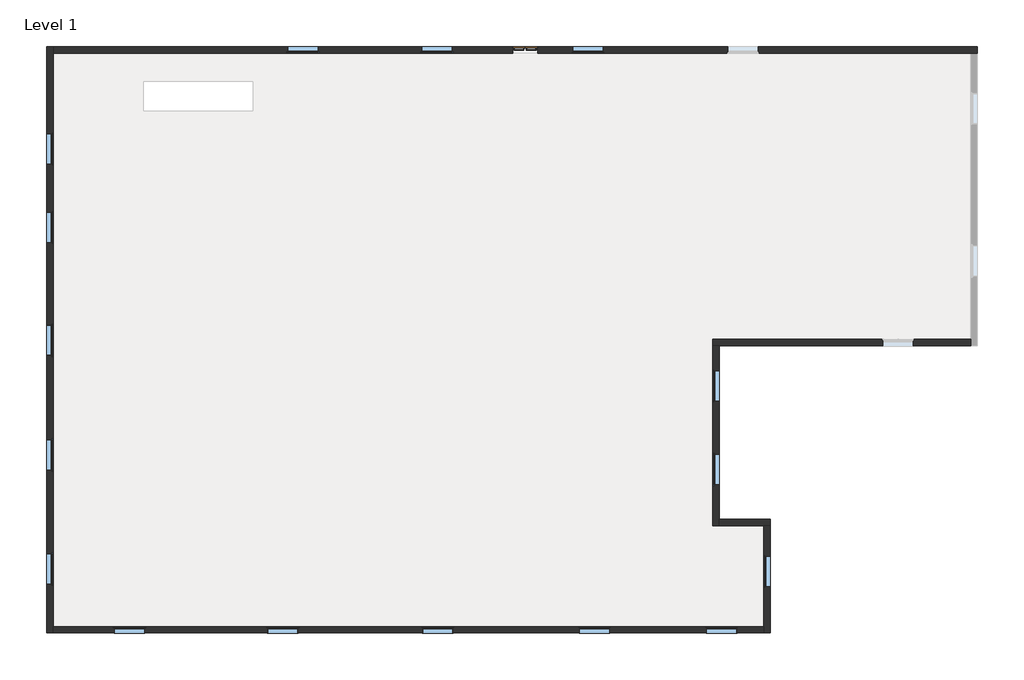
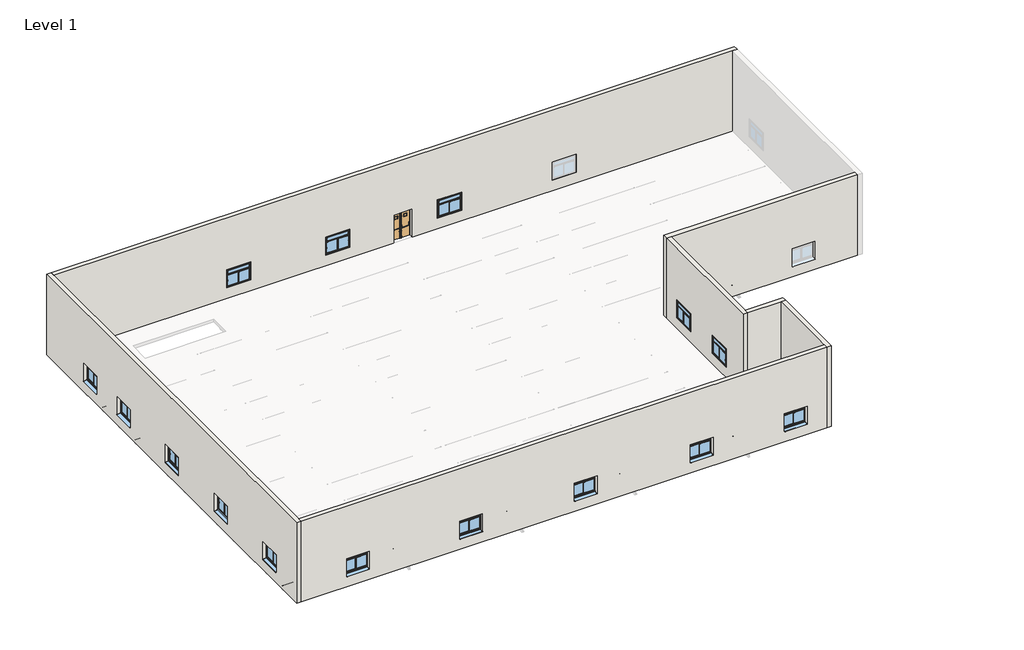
# One storey, part 1 of 2: 16 windows, 7 walls, 3 doors.
"""IFC4 building model written with IfcOpenShell, lengths in millimetres."""

from ifc_helpers import new_model, si_unit, origin, place, context, project, spatial, faceted_brep, transform, mapped, element, save
from components import door_de1cb5ff, door_e2584a8f, door_1_43m_x_2_10m_2_c0492d68, window_1_60m_x_1_30m_2_3fc02772

model = new_model("IFC4")

# Units and contexts
model_context = context("Model", 3, world=origin())
ifc_project = project(units=[si_unit("LENGTHUNIT", "METRE", prefix="MILLI")], contexts=[model_context])

# Site, building, storey
site = spatial("IfcSite", under=ifc_project)
building = spatial("IfcBuilding", under=site)
storey = spatial("IfcBuildingStorey", under=building, Name="Level 1", Elevation=5500.0)

# Doors
placement = place(None, origin())
door_shape = door_de1cb5ff(model_context)
element("IfcDoor", 1, ObjectType="BarreAP : BarreAP", at=placement, inside=storey, context=model_context, shape_type="MappedRepresentation", body=[
    mapped(door_shape, transform((24740.0, 30280.0, 5500.0), x_axis=(1.0, 0.0, 0.0), y_axis=(0.0, 1.0, 0.0), z_axis=(0.0, 0.0, 1.0))),
])
door_2_shape = door_e2584a8f(model_context)
element("IfcDoor", 2, ObjectType="BarreAP : BarreAP", at=placement, inside=storey, context=model_context, shape_type="MappedRepresentation", body=[
    mapped(door_2_shape, transform((24640.0, 30280.0, 5500.0), x_axis=(-1.0, 0.0, 0.0), y_axis=(0.0, -1.0, 0.0), z_axis=(0.0, 0.0, 1.0))),
])
door_1_43m_x_2_10m_2_shape = door_1_43m_x_2_10m_2_c0492d68(model_context)
element("IfcDoor", 3, ObjectType="Issue de Secours : 1.43m x 2.10m 2", at=placement, inside=storey, context=model_context, shape_type="MappedRepresentation", body=[
    mapped(door_1_43m_x_2_10m_2_shape, transform((24690.0, 30145.0, 5500.0), x_axis=(1.0, 0.0, 0.0), y_axis=(0.0, 1.0, 0.0), z_axis=(0.0, 0.0, 1.0))),
])

# Walls
element("IfcWall", 4, ObjectType="Ext. Parpaing 20 + Isolant ext&int", at=placement, inside=storey, context=model_context, shape_type="Brep", body=[
    faceted_brep([(20.0, -310.0, 5500.0), (20.0, 20.0, 5500.0), (20.0, 29980.0, 5500.0), (20.0, 30310.0, 5500.0), (20.0, 30310.0, 11500.0), (20.0, 29980.0, 11500.0), (20.0, 20.0, 11500.0), (20.0, -310.0, 11500.0), (20.0, 25830.0, 6300.0), (20.0, 24130.0, 6300.0), (20.0, 24130.0, 7650.0), (20.0, 25830.0, 7650.0), (20.0, 21730.0, 6300.0), (20.0, 20030.0, 6300.0), (20.0, 20030.0, 7650.0), (20.0, 21730.0, 7650.0), (20.0, 15830.0, 6300.0), (20.0, 14130.0, 6300.0), (20.0, 14130.0, 7650.0), (20.0, 15830.0, 7650.0), (20.0, 9830.0, 6300.0), (20.0, 8130.0, 6300.0), (20.0, 8130.0, 7650.0), (20.0, 9830.0, 7650.0), (20.0, 3870.0, 6300.0), (20.0, 2170.0, 6300.0), (20.0, 2170.0, 7650.0), (20.0, 3870.0, 7650.0), (-310.0, -310.0, 5500.0), (-310.0, -310.0, 11500.0), (-310.0, 30310.0, 11500.0), (-310.0, 30310.0, 5500.0), (-310.0, 24180.0, 7600.0), (-310.0, 24180.0, 6258.7239412), (-310.0, 25780.0, 6258.7239412), (-310.0, 25780.0, 7600.0), (-310.0, 20080.0, 7600.0), (-310.0, 20080.0, 6258.7239412), (-310.0, 21680.0, 6258.7239412), (-310.0, 21680.0, 7600.0), (-310.0, 14180.0, 7600.0), (-310.0, 14180.0, 6258.7239412), (-310.0, 15780.0, 6258.7239412), (-310.0, 15780.0, 7600.0), (-310.0, 8180.0, 7600.0), (-310.0, 8180.0, 6258.7239412), (-310.0, 9780.0, 6258.7239412), (-310.0, 9780.0, 7600.0), (-310.0, 2220.0, 7600.0), (-310.0, 2220.0, 6258.7239412), (-310.0, 3820.0, 6258.7239412), (-310.0, 3820.0, 7600.0), (-60.0, 24180.0, 6300.0), (-60.0, 24180.0, 6285.0), (-80.0, 24180.0, 7600.0), (-80.0, 24180.0, 6300.0), (-60.0, 25780.0, 6285.0), (-60.0, 25780.0, 6300.0), (-80.0, 25780.0, 6300.0), (-80.0, 25780.0, 7600.0), (-80.0, 24170.0, 6300.0), (-50.0, 24170.0, 6300.0), (-50.0, 24130.0, 6300.0), (-50.0, 25830.0, 6300.0), (-50.0, 25790.0, 6300.0), (-80.0, 25790.0, 6300.0), (-50.0, 24130.0, 7650.0), (-50.0, 24170.0, 7610.0), (-50.0, 25790.0, 7610.0), (-50.0, 25830.0, 7650.0), (-80.0, 24170.0, 7610.0), (-80.0, 25790.0, 7610.0), (-60.0, 20080.0, 6300.0), (-60.0, 20080.0, 6285.0), (-80.0, 20080.0, 7600.0), (-80.0, 20080.0, 6300.0), (-60.0, 21680.0, 6285.0), (-60.0, 21680.0, 6300.0), (-80.0, 21680.0, 6300.0), (-80.0, 21680.0, 7600.0), (-80.0, 20070.0, 6300.0), (-50.0, 20070.0, 6300.0), (-50.0, 20030.0, 6300.0), (-50.0, 21730.0, 6300.0), (-50.0, 21690.0, 6300.0), (-80.0, 21690.0, 6300.0), (-50.0, 20030.0, 7650.0), (-50.0, 20070.0, 7610.0), (-50.0, 21690.0, 7610.0), (-50.0, 21730.0, 7650.0), (-80.0, 20070.0, 7610.0), (-80.0, 21690.0, 7610.0), (-60.0, 14180.0, 6300.0), (-60.0, 14180.0, 6285.0), (-80.0, 14180.0, 7600.0), (-80.0, 14180.0, 6300.0), (-60.0, 15780.0, 6285.0), (-60.0, 15780.0, 6300.0), (-80.0, 15780.0, 6300.0), (-80.0, 15780.0, 7600.0), (-80.0, 14170.0, 6300.0), (-50.0, 14170.0, 6300.0), (-50.0, 14130.0, 6300.0), (-50.0, 15830.0, 6300.0), (-50.0, 15790.0, 6300.0), (-80.0, 15790.0, 6300.0), (-50.0, 14130.0, 7650.0), (-50.0, 14170.0, 7610.0), (-50.0, 15790.0, 7610.0), (-50.0, 15830.0, 7650.0), (-80.0, 14170.0, 7610.0), (-80.0, 15790.0, 7610.0), (-60.0, 8180.0, 6300.0), (-60.0, 8180.0, 6285.0), (-80.0, 8180.0, 7600.0), (-80.0, 8180.0, 6300.0), (-60.0, 9780.0, 6285.0), (-60.0, 9780.0, 6300.0), (-80.0, 9780.0, 6300.0), (-80.0, 9780.0, 7600.0), (-80.0, 8170.0, 6300.0), (-50.0, 8170.0, 6300.0), (-50.0, 8130.0, 6300.0), (-50.0, 9830.0, 6300.0), (-50.0, 9790.0, 6300.0), (-80.0, 9790.0, 6300.0), (-50.0, 8130.0, 7650.0), (-50.0, 8170.0, 7610.0), (-50.0, 9790.0, 7610.0), (-50.0, 9830.0, 7650.0), (-80.0, 8170.0, 7610.0), (-80.0, 9790.0, 7610.0), (-60.0, 2220.0, 6300.0), (-60.0, 2220.0, 6285.0), (-80.0, 2220.0, 7600.0), (-80.0, 2220.0, 6300.0), (-60.0, 3820.0, 6285.0), (-60.0, 3820.0, 6300.0), (-80.0, 3820.0, 6300.0), (-80.0, 3820.0, 7600.0), (-80.0, 2210.0, 6300.0), (-50.0, 2210.0, 6300.0), (-50.0, 2170.0, 6300.0), (-50.0, 3870.0, 6300.0), (-50.0, 3830.0, 6300.0), (-80.0, 3830.0, 6300.0), (-50.0, 2170.0, 7650.0), (-50.0, 2210.0, 7610.0), (-50.0, 3830.0, 7610.0), (-50.0, 3870.0, 7650.0), (-80.0, 2210.0, 7610.0), (-80.0, 3830.0, 7610.0)], [[[0, 1, 2, 3, 4, 5, 6, 7], [8, 9, 10, 11], [12, 13, 14, 15], [16, 17, 18, 19], [20, 21, 22, 23], [24, 25, 26, 27]], [[28, 29, 30, 31], [32, 33, 34, 35], [36, 37, 38, 39], [40, 41, 42, 43], [44, 45, 46, 47], [48, 49, 50, 51]], [[3, 2, 1, 0, 28, 31]], [[7, 6, 5, 4, 30, 29]], [[4, 3, 31, 30]], [[0, 7, 29, 28]], [[52, 53, 33, 32, 54, 55]], [[56, 57, 58, 59, 35, 34]], [[53, 56, 34, 33]], [[53, 52, 57, 56]], [[32, 35, 59, 54]], [[57, 52, 55, 60, 61, 62, 9, 8, 63, 64, 65, 58]], [[9, 62, 66, 10]], [[62, 61, 67, 68, 64, 63, 69, 66]], [[61, 60, 70, 67]], [[60, 55, 54, 59, 58, 65, 71, 70]], [[10, 66, 69, 11]], [[68, 67, 70, 71]], [[69, 63, 8, 11]], [[64, 68, 71, 65]], [[72, 73, 37, 36, 74, 75]], [[76, 77, 78, 79, 39, 38]], [[73, 76, 38, 37]], [[73, 72, 77, 76]], [[36, 39, 79, 74]], [[77, 72, 75, 80, 81, 82, 13, 12, 83, 84, 85, 78]], [[13, 82, 86, 14]], [[82, 81, 87, 88, 84, 83, 89, 86]], [[81, 80, 90, 87]], [[80, 75, 74, 79, 78, 85, 91, 90]], [[14, 86, 89, 15]], [[88, 87, 90, 91]], [[89, 83, 12, 15]], [[84, 88, 91, 85]], [[92, 93, 41, 40, 94, 95]], [[96, 97, 98, 99, 43, 42]], [[93, 96, 42, 41]], [[93, 92, 97, 96]], [[40, 43, 99, 94]], [[97, 92, 95, 100, 101, 102, 17, 16, 103, 104, 105, 98]], [[17, 102, 106, 18]], [[102, 101, 107, 108, 104, 103, 109, 106]], [[101, 100, 110, 107]], [[100, 95, 94, 99, 98, 105, 111, 110]], [[18, 106, 109, 19]], [[108, 107, 110, 111]], [[109, 103, 16, 19]], [[104, 108, 111, 105]], [[112, 113, 45, 44, 114, 115]], [[116, 117, 118, 119, 47, 46]], [[113, 116, 46, 45]], [[113, 112, 117, 116]], [[44, 47, 119, 114]], [[117, 112, 115, 120, 121, 122, 21, 20, 123, 124, 125, 118]], [[21, 122, 126, 22]], [[122, 121, 127, 128, 124, 123, 129, 126]], [[121, 120, 130, 127]], [[120, 115, 114, 119, 118, 125, 131, 130]], [[22, 126, 129, 23]], [[128, 127, 130, 131]], [[129, 123, 20, 23]], [[124, 128, 131, 125]], [[132, 133, 49, 48, 134, 135]], [[136, 137, 138, 139, 51, 50]], [[133, 136, 50, 49]], [[133, 132, 137, 136]], [[48, 51, 139, 134]], [[137, 132, 135, 140, 141, 142, 25, 24, 143, 144, 145, 138]], [[25, 142, 146, 26]], [[142, 141, 147, 148, 144, 143, 149, 146]], [[141, 140, 150, 147]], [[140, 135, 134, 139, 138, 145, 151, 150]], [[26, 146, 149, 27]], [[148, 147, 150, 151]], [[149, 143, 24, 27]], [[144, 148, 151, 145]]]),
])
element("IfcWall", 5, ObjectType="Ext. Parpaing 20 + Isolant ext&int", at=placement, inside=storey, context=model_context, shape_type="Brep", body=[
    faceted_brep([(48310.0, 29980.0, 11500.0), (47980.0, 29980.0, 11500.0), (20.0, 29980.0, 11500.0), (20.0, 29980.0, 5500.0), (24030.0, 29980.0, 5500.0), (24030.0, 29980.0, 7610.0), (25350.0, 29980.0, 7610.0), (25350.0, 29980.0, 5500.0), (47980.0, 29980.0, 5500.0), (48310.0, 29980.0, 5500.0), (36930.0, 29980.0, 6300.0), (35230.0, 29980.0, 6300.0), (35230.0, 29980.0, 7650.0), (36930.0, 29980.0, 7650.0), (28830.0, 29980.0, 6300.0), (27130.0, 29980.0, 6300.0), (27130.0, 29980.0, 7650.0), (28830.0, 29980.0, 7650.0), (20930.0, 29980.0, 6300.0), (19230.0, 29980.0, 6300.0), (19230.0, 29980.0, 7650.0), (20930.0, 29980.0, 7650.0), (13930.0, 29980.0, 6300.0), (12230.0, 29980.0, 6300.0), (12230.0, 29980.0, 7650.0), (13930.0, 29980.0, 7650.0), (20.0, 30310.0, 11500.0), (48310.0, 30310.0, 11500.0), (48310.0, 30310.0, 5500.0), (25390.0, 30310.0, 5500.0), (25390.0, 30310.0, 7650.0), (23990.0, 30310.0, 7650.0), (23990.0, 30310.0, 5500.0), (20.0, 30310.0, 5500.0), (35280.0, 30310.0, 7600.0), (35280.0, 30310.0, 6258.7239412), (36880.0, 30310.0, 6258.7239412), (36880.0, 30310.0, 7600.0), (27180.0, 30310.0, 7600.0), (27180.0, 30310.0, 6258.7239412), (28780.0, 30310.0, 6258.7239412), (28780.0, 30310.0, 7600.0), (19280.0, 30310.0, 7600.0), (19280.0, 30310.0, 6258.7239412), (20880.0, 30310.0, 6258.7239412), (20880.0, 30310.0, 7600.0), (12280.0, 30310.0, 7600.0), (12280.0, 30310.0, 6258.7239412), (13880.0, 30310.0, 6258.7239412), (13880.0, 30310.0, 7600.0), (23990.0, 30260.0, 5500.0), (24030.0, 30260.0, 5500.0), (25350.0, 30260.0, 5500.0), (25390.0, 30260.0, 5500.0), (35280.0, 30060.0, 6300.0), (35280.0, 30060.0, 6285.0), (35280.0, 30080.0, 7600.0), (35280.0, 30080.0, 6300.0), (36880.0, 30060.0, 6285.0), (36880.0, 30060.0, 6300.0), (36880.0, 30080.0, 6300.0), (36880.0, 30080.0, 7600.0), (35270.0, 30080.0, 6300.0), (35270.0, 30050.0, 6300.0), (35230.0, 30050.0, 6300.0), (36930.0, 30050.0, 6300.0), (36890.0, 30050.0, 6300.0), (36890.0, 30080.0, 6300.0), (35230.0, 30050.0, 7650.0), (35270.0, 30050.0, 7610.0), (36890.0, 30050.0, 7610.0), (36930.0, 30050.0, 7650.0), (35270.0, 30080.0, 7610.0), (36890.0, 30080.0, 7610.0), (27180.0, 30060.0, 6300.0), (27180.0, 30060.0, 6285.0), (27180.0, 30080.0, 7600.0), (27180.0, 30080.0, 6300.0), (28780.0, 30060.0, 6285.0), (28780.0, 30060.0, 6300.0), (28780.0, 30080.0, 6300.0), (28780.0, 30080.0, 7600.0), (27170.0, 30080.0, 6300.0), (27170.0, 30050.0, 6300.0), (27130.0, 30050.0, 6300.0), (28830.0, 30050.0, 6300.0), (28790.0, 30050.0, 6300.0), (28790.0, 30080.0, 6300.0), (27130.0, 30050.0, 7650.0), (27170.0, 30050.0, 7610.0), (28790.0, 30050.0, 7610.0), (28830.0, 30050.0, 7650.0), (27170.0, 30080.0, 7610.0), (28790.0, 30080.0, 7610.0), (19280.0, 30060.0, 6300.0), (19280.0, 30060.0, 6285.0), (19280.0, 30080.0, 7600.0), (19280.0, 30080.0, 6300.0), (20880.0, 30060.0, 6285.0), (20880.0, 30060.0, 6300.0), (20880.0, 30080.0, 6300.0), (20880.0, 30080.0, 7600.0), (19270.0, 30080.0, 6300.0), (19270.0, 30050.0, 6300.0), (19230.0, 30050.0, 6300.0), (20930.0, 30050.0, 6300.0), (20890.0, 30050.0, 6300.0), (20890.0, 30080.0, 6300.0), (19230.0, 30050.0, 7650.0), (19270.0, 30050.0, 7610.0), (20890.0, 30050.0, 7610.0), (20930.0, 30050.0, 7650.0), (19270.0, 30080.0, 7610.0), (20890.0, 30080.0, 7610.0), (12280.0, 30060.0, 6300.0), (12280.0, 30060.0, 6285.0), (12280.0, 30080.0, 7600.0), (12280.0, 30080.0, 6300.0), (13880.0, 30060.0, 6285.0), (13880.0, 30060.0, 6300.0), (13880.0, 30080.0, 6300.0), (13880.0, 30080.0, 7600.0), (12270.0, 30080.0, 6300.0), (12270.0, 30050.0, 6300.0), (12230.0, 30050.0, 6300.0), (13930.0, 30050.0, 6300.0), (13890.0, 30050.0, 6300.0), (13890.0, 30080.0, 6300.0), (12230.0, 30050.0, 7650.0), (12270.0, 30050.0, 7610.0), (13890.0, 30050.0, 7610.0), (13930.0, 30050.0, 7650.0), (12270.0, 30080.0, 7610.0), (13890.0, 30080.0, 7610.0), (25350.0, 30260.0, 7610.0), (24030.0, 30260.0, 7610.0), (23990.0, 30260.0, 7650.0), (25390.0, 30260.0, 7650.0)], [[[0, 1, 2, 3, 4, 5, 6, 7, 8, 9], [10, 11, 12, 13], [14, 15, 16, 17], [18, 19, 20, 21], [22, 23, 24, 25]], [[26, 27, 28, 29, 30, 31, 32, 33], [34, 35, 36, 37], [38, 39, 40, 41], [42, 43, 44, 45], [46, 47, 48, 49]], [[3, 33, 32, 50, 51, 4]], [[28, 9, 8, 7, 52, 53, 29]], [[2, 1, 0, 27, 26]], [[3, 2, 26, 33]], [[0, 9, 28, 27]], [[54, 55, 35, 34, 56, 57]], [[58, 59, 60, 61, 37, 36]], [[55, 58, 36, 35]], [[55, 54, 59, 58]], [[34, 37, 61, 56]], [[59, 54, 57, 62, 63, 64, 11, 10, 65, 66, 67, 60]], [[11, 64, 68, 12]], [[64, 63, 69, 70, 66, 65, 71, 68]], [[63, 62, 72, 69]], [[62, 57, 56, 61, 60, 67, 73, 72]], [[12, 68, 71, 13]], [[70, 69, 72, 73]], [[71, 65, 10, 13]], [[66, 70, 73, 67]], [[74, 75, 39, 38, 76, 77]], [[78, 79, 80, 81, 41, 40]], [[75, 78, 40, 39]], [[75, 74, 79, 78]], [[38, 41, 81, 76]], [[79, 74, 77, 82, 83, 84, 15, 14, 85, 86, 87, 80]], [[15, 84, 88, 16]], [[84, 83, 89, 90, 86, 85, 91, 88]], [[83, 82, 92, 89]], [[82, 77, 76, 81, 80, 87, 93, 92]], [[16, 88, 91, 17]], [[90, 89, 92, 93]], [[91, 85, 14, 17]], [[86, 90, 93, 87]], [[94, 95, 43, 42, 96, 97]], [[98, 99, 100, 101, 45, 44]], [[95, 98, 44, 43]], [[95, 94, 99, 98]], [[42, 45, 101, 96]], [[99, 94, 97, 102, 103, 104, 19, 18, 105, 106, 107, 100]], [[19, 104, 108, 20]], [[104, 103, 109, 110, 106, 105, 111, 108]], [[103, 102, 112, 109]], [[102, 97, 96, 101, 100, 107, 113, 112]], [[20, 108, 111, 21]], [[110, 109, 112, 113]], [[111, 105, 18, 21]], [[106, 110, 113, 107]], [[114, 115, 47, 46, 116, 117]], [[118, 119, 120, 121, 49, 48]], [[115, 118, 48, 47]], [[115, 114, 119, 118]], [[46, 49, 121, 116]], [[119, 114, 117, 122, 123, 124, 23, 22, 125, 126, 127, 120]], [[23, 124, 128, 24]], [[124, 123, 129, 130, 126, 125, 131, 128]], [[123, 122, 132, 129]], [[122, 117, 116, 121, 120, 127, 133, 132]], [[24, 128, 131, 25]], [[130, 129, 132, 133]], [[131, 125, 22, 25]], [[126, 130, 133, 127]], [[134, 52, 7, 6]], [[135, 134, 6, 5]], [[51, 135, 5, 4]], [[134, 135, 51, 50, 136, 137, 53, 52]], [[136, 50, 32, 31]], [[137, 136, 31, 30]], [[53, 137, 30, 29]]]),
])
element("IfcWall", 6, ObjectType="Ext. Parpaing 20 + Isolant ext&int", at=placement, inside=storey, context=model_context, shape_type="Brep", body=[
    faceted_brep([(47980.0, 15020.0, 5500.0), (34488.36989, 15020.0, 5500.0), (34488.36989, 15020.0, 11500.0), (47980.0, 15020.0, 11500.0), (43330.0, 15020.0, 6300.0), (45030.0, 15020.0, 6300.0), (45030.0, 15020.0, 7650.0), (43330.0, 15020.0, 7650.0), (47980.0, 14690.0, 5500.0), (47980.0, 14690.0, 11500.0), (34818.36989, 14690.0, 11500.0), (34488.36989, 14690.0, 11500.0), (34488.36989, 14690.0, 5500.0), (34818.36989, 14690.0, 5500.0), (44980.0, 14690.0, 7600.0), (44980.0, 14690.0, 6258.7239412), (43380.0, 14690.0, 6258.7239412), (43380.0, 14690.0, 7600.0), (44980.0, 14940.0, 6300.0), (44980.0, 14940.0, 6285.0), (44980.0, 14920.0, 7600.0), (44980.0, 14920.0, 6300.0), (43380.0, 14940.0, 6285.0), (43380.0, 14940.0, 6300.0), (43380.0, 14920.0, 6300.0), (43380.0, 14920.0, 7600.0), (44990.0, 14920.0, 6300.0), (44990.0, 14950.0, 6300.0), (45030.0, 14950.0, 6300.0), (43330.0, 14950.0, 6300.0), (43370.0, 14950.0, 6300.0), (43370.0, 14920.0, 6300.0), (45030.0, 14950.0, 7650.0), (44990.0, 14950.0, 7610.0), (43370.0, 14950.0, 7610.0), (43330.0, 14950.0, 7650.0), (44990.0, 14920.0, 7610.0), (43370.0, 14920.0, 7610.0)], [[[0, 1, 2, 3], [4, 5, 6, 7]], [[8, 9, 10, 11, 12, 13], [14, 15, 16, 17]], [[1, 0, 8, 13, 12]], [[3, 2, 11, 10, 9]], [[0, 3, 9, 8]], [[2, 1, 12, 11]], [[18, 19, 15, 14, 20, 21]], [[22, 23, 24, 25, 17, 16]], [[19, 22, 16, 15]], [[19, 18, 23, 22]], [[14, 17, 25, 20]], [[23, 18, 21, 26, 27, 28, 5, 4, 29, 30, 31, 24]], [[5, 28, 32, 6]], [[28, 27, 33, 34, 30, 29, 35, 32]], [[27, 26, 36, 33]], [[26, 21, 20, 25, 24, 31, 37, 36]], [[6, 32, 35, 7]], [[34, 33, 36, 37]], [[35, 29, 4, 7]], [[30, 34, 37, 31]]]),
])
element("IfcWall", 7, ObjectType="Ext. Parpaing 20 + Isolant ext&int", at=placement, inside=storey, context=model_context, shape_type="Brep", body=[
    faceted_brep([(34488.36989, 14690.0, 5500.0), (34488.36989, 5297.0803084, 5500.0), (34488.36989, 5297.0803084, 11500.0), (34488.36989, 14690.0, 11500.0), (34488.36989, 7377.0803084, 6300.0), (34488.36989, 9077.0803084, 6300.0), (34488.36989, 9077.0803084, 7650.0), (34488.36989, 7377.0803084, 7650.0), (34488.36989, 11740.0, 6300.0), (34488.36989, 13440.0, 6300.0), (34488.36989, 13440.0, 7650.0), (34488.36989, 11740.0, 7650.0), (34818.36989, 14690.0, 5500.0), (34818.36989, 14690.0, 11500.0), (34818.36989, 5627.0803084, 11500.0), (34818.36989, 5297.0803084, 11500.0), (34818.36989, 5297.0803084, 5500.0), (34818.36989, 5627.0803084, 5500.0), (34818.36989, 9027.0803084, 7600.0), (34818.36989, 9027.0803084, 6258.7239412), (34818.36989, 7427.0803084, 6258.7239412), (34818.36989, 7427.0803084, 7600.0), (34818.36989, 13390.0, 7600.0), (34818.36989, 13390.0, 6258.7239412), (34818.36989, 11790.0, 6258.7239412), (34818.36989, 11790.0, 7600.0), (34568.36989, 9027.0803084, 6300.0), (34568.36989, 9027.0803084, 6285.0), (34588.36989, 9027.0803084, 7600.0), (34588.36989, 9027.0803084, 6300.0), (34568.36989, 7427.0803084, 6285.0), (34568.36989, 7427.0803084, 6300.0), (34588.36989, 7427.0803084, 6300.0), (34588.36989, 7427.0803084, 7600.0), (34588.36989, 9037.0803084, 6300.0), (34558.36989, 9037.0803084, 6300.0), (34558.36989, 9077.0803084, 6300.0), (34558.36989, 7377.0803084, 6300.0), (34558.36989, 7417.0803084, 6300.0), (34588.36989, 7417.0803084, 6300.0), (34558.36989, 9077.0803084, 7650.0), (34558.36989, 9037.0803084, 7610.0), (34558.36989, 7417.0803084, 7610.0), (34558.36989, 7377.0803084, 7650.0), (34588.36989, 9037.0803084, 7610.0), (34588.36989, 7417.0803084, 7610.0), (34568.36989, 13390.0, 6300.0), (34568.36989, 13390.0, 6285.0), (34588.36989, 13390.0, 7600.0), (34588.36989, 13390.0, 6300.0), (34568.36989, 11790.0, 6285.0), (34568.36989, 11790.0, 6300.0), (34588.36989, 11790.0, 6300.0), (34588.36989, 11790.0, 7600.0), (34588.36989, 13400.0, 6300.0), (34558.36989, 13400.0, 6300.0), (34558.36989, 13440.0, 6300.0), (34558.36989, 11740.0, 6300.0), (34558.36989, 11780.0, 6300.0), (34588.36989, 11780.0, 6300.0), (34558.36989, 13440.0, 7650.0), (34558.36989, 13400.0, 7610.0), (34558.36989, 11780.0, 7610.0), (34558.36989, 11740.0, 7650.0), (34588.36989, 13400.0, 7610.0), (34588.36989, 11780.0, 7610.0)], [[[0, 1, 2, 3], [4, 5, 6, 7], [8, 9, 10, 11]], [[12, 13, 14, 15, 16, 17], [18, 19, 20, 21], [22, 23, 24, 25]], [[1, 0, 12, 17, 16]], [[3, 2, 15, 14, 13]], [[0, 3, 13, 12]], [[2, 1, 16, 15]], [[26, 27, 19, 18, 28, 29]], [[30, 31, 32, 33, 21, 20]], [[27, 30, 20, 19]], [[27, 26, 31, 30]], [[18, 21, 33, 28]], [[31, 26, 29, 34, 35, 36, 5, 4, 37, 38, 39, 32]], [[5, 36, 40, 6]], [[36, 35, 41, 42, 38, 37, 43, 40]], [[35, 34, 44, 41]], [[34, 29, 28, 33, 32, 39, 45, 44]], [[6, 40, 43, 7]], [[42, 41, 44, 45]], [[43, 37, 4, 7]], [[38, 42, 45, 39]], [[46, 47, 23, 22, 48, 49]], [[50, 51, 52, 53, 25, 24]], [[47, 50, 24, 23]], [[47, 46, 51, 50]], [[22, 25, 53, 48]], [[51, 46, 49, 54, 55, 56, 9, 8, 57, 58, 59, 52]], [[9, 56, 60, 10]], [[56, 55, 61, 62, 58, 57, 63, 60]], [[55, 54, 64, 61]], [[54, 49, 48, 53, 52, 59, 65, 64]], [[10, 60, 63, 11]], [[62, 61, 64, 65]], [[63, 57, 8, 11]], [[58, 62, 65, 59]]]),
])
element("IfcWall", 8, ObjectType="Ext. Parpaing 20 + Isolant ext&int", at=placement, inside=storey, context=model_context, shape_type="Brep", body=[
    faceted_brep([(34818.36989, 5297.0803084, 5500.0), (37159.4829967, 5297.0803084, 5500.0), (37489.4829967, 5297.0803084, 5500.0), (37489.4829967, 5297.0803084, 11500.0), (37159.4829967, 5297.0803084, 11500.0), (34818.36989, 5297.0803084, 11500.0), (34818.36989, 5627.0803084, 5500.0), (34818.36989, 5627.0803084, 11500.0), (37489.4829967, 5627.0803084, 11500.0), (37489.4829967, 5627.0803084, 5500.0)], [[[0, 1, 2, 3, 4, 5]], [[6, 7, 8, 9]], [[2, 1, 0, 6, 9]], [[5, 4, 3, 8, 7]], [[0, 5, 7, 6]], [[3, 2, 9, 8]]]),
])
element("IfcWall", 9, ObjectType="Ext. Parpaing 20 + Isolant ext&int", at=placement, inside=storey, context=model_context, shape_type="Brep", body=[
    faceted_brep([(37159.4829967, 5297.0803084, 5500.0), (37159.4829967, 20.0, 5500.0), (37159.4829967, -310.0, 5500.0), (37159.4829967, -310.0, 11500.0), (37159.4829967, 20.0, 11500.0), (37159.4829967, 5297.0803084, 11500.0), (37159.4829967, 2047.0803084, 6300.0), (37159.4829967, 3747.0803084, 6300.0), (37159.4829967, 3747.0803084, 7650.0), (37159.4829967, 2047.0803084, 7650.0), (37489.4829967, 5297.0803084, 5500.0), (37489.4829967, 5297.0803084, 11500.0), (37489.4829967, -310.0, 11500.0), (37489.4829967, -310.0, 5500.0), (37489.4829967, 3697.0803084, 7600.0), (37489.4829967, 3697.0803084, 6258.7239412), (37489.4829967, 2097.0803084, 6258.7239412), (37489.4829967, 2097.0803084, 7600.0), (37239.4829967, 3697.0803084, 6300.0), (37239.4829967, 3697.0803084, 6285.0), (37259.4829967, 3697.0803084, 7600.0), (37259.4829967, 3697.0803084, 6300.0), (37239.4829967, 2097.0803084, 6285.0), (37239.4829967, 2097.0803084, 6300.0), (37259.4829967, 2097.0803084, 6300.0), (37259.4829967, 2097.0803084, 7600.0), (37259.4829967, 3707.0803084, 6300.0), (37229.4829967, 3707.0803084, 6300.0), (37229.4829967, 3747.0803084, 6300.0), (37229.4829967, 2047.0803084, 6300.0), (37229.4829967, 2087.0803084, 6300.0), (37259.4829967, 2087.0803084, 6300.0), (37229.4829967, 3747.0803084, 7650.0), (37229.4829967, 3707.0803084, 7610.0), (37229.4829967, 2087.0803084, 7610.0), (37229.4829967, 2047.0803084, 7650.0), (37259.4829967, 3707.0803084, 7610.0), (37259.4829967, 2087.0803084, 7610.0)], [[[0, 1, 2, 3, 4, 5], [6, 7, 8, 9]], [[10, 11, 12, 13], [14, 15, 16, 17]], [[2, 1, 0, 10, 13]], [[5, 4, 3, 12, 11]], [[0, 5, 11, 10]], [[3, 2, 13, 12]], [[18, 19, 15, 14, 20, 21]], [[22, 23, 24, 25, 17, 16]], [[19, 22, 16, 15]], [[19, 18, 23, 22]], [[14, 17, 25, 20]], [[23, 18, 21, 26, 27, 28, 7, 6, 29, 30, 31, 24]], [[7, 28, 32, 8]], [[28, 27, 33, 34, 30, 29, 35, 32]], [[27, 26, 36, 33]], [[26, 21, 20, 25, 24, 31, 37, 36]], [[8, 32, 35, 9]], [[34, 33, 36, 37]], [[35, 29, 6, 9]], [[30, 34, 37, 31]]]),
])
element("IfcWall", 10, ObjectType="Ext. Parpaing 20 + Isolant ext&int", at=placement, inside=storey, context=model_context, shape_type="Brep", body=[
    faceted_brep([(37159.4829967, 20.0, 5500.0), (20.0, 20.0, 5500.0), (20.0, 20.0, 11500.0), (37159.4829967, 20.0, 11500.0), (3170.0, 20.0, 6300.0), (4870.0, 20.0, 6300.0), (4870.0, 20.0, 7650.0), (3170.0, 20.0, 7650.0), (11170.0, 20.0, 6300.0), (12870.0, 20.0, 6300.0), (12870.0, 20.0, 7650.0), (11170.0, 20.0, 7650.0), (19270.0, 20.0, 6300.0), (20970.0, 20.0, 6300.0), (20970.0, 20.0, 7650.0), (19270.0, 20.0, 7650.0), (27470.0, 20.0, 6300.0), (29170.0, 20.0, 6300.0), (29170.0, 20.0, 7650.0), (27470.0, 20.0, 7650.0), (34109.4829967, 20.0, 6300.0), (35809.4829967, 20.0, 6300.0), (35809.4829967, 20.0, 7650.0), (34109.4829967, 20.0, 7650.0), (37159.4829967, -310.0, 5500.0), (37159.4829967, -310.0, 11500.0), (20.0, -310.0, 11500.0), (20.0, -310.0, 5500.0), (4820.0, -310.0, 7600.0), (4820.0, -310.0, 6258.7239412), (3220.0, -310.0, 6258.7239412), (3220.0, -310.0, 7600.0), (12820.0, -310.0, 7600.0), (12820.0, -310.0, 6258.7239412), (11220.0, -310.0, 6258.7239412), (11220.0, -310.0, 7600.0), (20920.0, -310.0, 7600.0), (20920.0, -310.0, 6258.7239412), (19320.0, -310.0, 6258.7239412), (19320.0, -310.0, 7600.0), (29120.0, -310.0, 7600.0), (29120.0, -310.0, 6258.7239412), (27520.0, -310.0, 6258.7239412), (27520.0, -310.0, 7600.0), (35759.4829967, -310.0, 7600.0), (35759.4829967, -310.0, 6258.7239412), (34159.4829967, -310.0, 6258.7239412), (34159.4829967, -310.0, 7600.0), (4820.0, -60.0, 6300.0), (4820.0, -60.0, 6285.0), (4820.0, -80.0, 7600.0), (4820.0, -80.0, 6300.0), (3220.0, -60.0, 6285.0), (3220.0, -60.0, 6300.0), (3220.0, -80.0, 6300.0), (3220.0, -80.0, 7600.0), (4830.0, -80.0, 6300.0), (4830.0, -50.0, 6300.0), (4870.0, -50.0, 6300.0), (3170.0, -50.0, 6300.0), (3210.0, -50.0, 6300.0), (3210.0, -80.0, 6300.0), (4870.0, -50.0, 7650.0), (4830.0, -50.0, 7610.0), (3210.0, -50.0, 7610.0), (3170.0, -50.0, 7650.0), (4830.0, -80.0, 7610.0), (3210.0, -80.0, 7610.0), (12820.0, -60.0, 6300.0), (12820.0, -60.0, 6285.0), (12820.0, -80.0, 7600.0), (12820.0, -80.0, 6300.0), (11220.0, -60.0, 6285.0), (11220.0, -60.0, 6300.0), (11220.0, -80.0, 6300.0), (11220.0, -80.0, 7600.0), (12830.0, -80.0, 6300.0), (12830.0, -50.0, 6300.0), (12870.0, -50.0, 6300.0), (11170.0, -50.0, 6300.0), (11210.0, -50.0, 6300.0), (11210.0, -80.0, 6300.0), (12870.0, -50.0, 7650.0), (12830.0, -50.0, 7610.0), (11210.0, -50.0, 7610.0), (11170.0, -50.0, 7650.0), (12830.0, -80.0, 7610.0), (11210.0, -80.0, 7610.0), (20920.0, -60.0, 6300.0), (20920.0, -60.0, 6285.0), (20920.0, -80.0, 7600.0), (20920.0, -80.0, 6300.0), (19320.0, -60.0, 6285.0), (19320.0, -60.0, 6300.0), (19320.0, -80.0, 6300.0), (19320.0, -80.0, 7600.0), (20930.0, -80.0, 6300.0), (20930.0, -50.0, 6300.0), (20970.0, -50.0, 6300.0), (19270.0, -50.0, 6300.0), (19310.0, -50.0, 6300.0), (19310.0, -80.0, 6300.0), (20970.0, -50.0, 7650.0), (20930.0, -50.0, 7610.0), (19310.0, -50.0, 7610.0), (19270.0, -50.0, 7650.0), (20930.0, -80.0, 7610.0), (19310.0, -80.0, 7610.0), (29120.0, -60.0, 6300.0), (29120.0, -60.0, 6285.0), (29120.0, -80.0, 7600.0), (29120.0, -80.0, 6300.0), (27520.0, -60.0, 6285.0), (27520.0, -60.0, 6300.0), (27520.0, -80.0, 6300.0), (27520.0, -80.0, 7600.0), (29130.0, -80.0, 6300.0), (29130.0, -50.0, 6300.0), (29170.0, -50.0, 6300.0), (27470.0, -50.0, 6300.0), (27510.0, -50.0, 6300.0), (27510.0, -80.0, 6300.0), (29170.0, -50.0, 7650.0), (29130.0, -50.0, 7610.0), (27510.0, -50.0, 7610.0), (27470.0, -50.0, 7650.0), (29130.0, -80.0, 7610.0), (27510.0, -80.0, 7610.0), (35759.4829967, -60.0, 6300.0), (35759.4829967, -60.0, 6285.0), (35759.4829967, -80.0, 7600.0), (35759.4829967, -80.0, 6300.0), (34159.4829967, -60.0, 6285.0), (34159.4829967, -60.0, 6300.0), (34159.4829967, -80.0, 6300.0), (34159.4829967, -80.0, 7600.0), (35769.4829967, -80.0, 6300.0), (35769.4829967, -50.0, 6300.0), (35809.4829967, -50.0, 6300.0), (34109.4829967, -50.0, 6300.0), (34149.4829967, -50.0, 6300.0), (34149.4829967, -80.0, 6300.0), (35809.4829967, -50.0, 7650.0), (35769.4829967, -50.0, 7610.0), (34149.4829967, -50.0, 7610.0), (34109.4829967, -50.0, 7650.0), (35769.4829967, -80.0, 7610.0), (34149.4829967, -80.0, 7610.0)], [[[0, 1, 2, 3], [4, 5, 6, 7], [8, 9, 10, 11], [12, 13, 14, 15], [16, 17, 18, 19], [20, 21, 22, 23]], [[24, 25, 26, 27], [28, 29, 30, 31], [32, 33, 34, 35], [36, 37, 38, 39], [40, 41, 42, 43], [44, 45, 46, 47]], [[1, 0, 24, 27]], [[3, 2, 26, 25]], [[2, 1, 27, 26]], [[0, 3, 25, 24]], [[48, 49, 29, 28, 50, 51]], [[52, 53, 54, 55, 31, 30]], [[49, 52, 30, 29]], [[49, 48, 53, 52]], [[28, 31, 55, 50]], [[53, 48, 51, 56, 57, 58, 5, 4, 59, 60, 61, 54]], [[5, 58, 62, 6]], [[58, 57, 63, 64, 60, 59, 65, 62]], [[57, 56, 66, 63]], [[56, 51, 50, 55, 54, 61, 67, 66]], [[6, 62, 65, 7]], [[64, 63, 66, 67]], [[65, 59, 4, 7]], [[60, 64, 67, 61]], [[68, 69, 33, 32, 70, 71]], [[72, 73, 74, 75, 35, 34]], [[69, 72, 34, 33]], [[69, 68, 73, 72]], [[32, 35, 75, 70]], [[73, 68, 71, 76, 77, 78, 9, 8, 79, 80, 81, 74]], [[9, 78, 82, 10]], [[78, 77, 83, 84, 80, 79, 85, 82]], [[77, 76, 86, 83]], [[76, 71, 70, 75, 74, 81, 87, 86]], [[10, 82, 85, 11]], [[84, 83, 86, 87]], [[85, 79, 8, 11]], [[80, 84, 87, 81]], [[88, 89, 37, 36, 90, 91]], [[92, 93, 94, 95, 39, 38]], [[89, 92, 38, 37]], [[89, 88, 93, 92]], [[36, 39, 95, 90]], [[93, 88, 91, 96, 97, 98, 13, 12, 99, 100, 101, 94]], [[13, 98, 102, 14]], [[98, 97, 103, 104, 100, 99, 105, 102]], [[97, 96, 106, 103]], [[96, 91, 90, 95, 94, 101, 107, 106]], [[14, 102, 105, 15]], [[104, 103, 106, 107]], [[105, 99, 12, 15]], [[100, 104, 107, 101]], [[108, 109, 41, 40, 110, 111]], [[112, 113, 114, 115, 43, 42]], [[109, 112, 42, 41]], [[109, 108, 113, 112]], [[40, 43, 115, 110]], [[113, 108, 111, 116, 117, 118, 17, 16, 119, 120, 121, 114]], [[17, 118, 122, 18]], [[118, 117, 123, 124, 120, 119, 125, 122]], [[117, 116, 126, 123]], [[116, 111, 110, 115, 114, 121, 127, 126]], [[18, 122, 125, 19]], [[124, 123, 126, 127]], [[125, 119, 16, 19]], [[120, 124, 127, 121]], [[128, 129, 45, 44, 130, 131]], [[132, 133, 134, 135, 47, 46]], [[129, 132, 46, 45]], [[129, 128, 133, 132]], [[44, 47, 135, 130]], [[133, 128, 131, 136, 137, 138, 21, 20, 139, 140, 141, 134]], [[21, 138, 142, 22]], [[138, 137, 143, 144, 140, 139, 145, 142]], [[137, 136, 146, 143]], [[136, 131, 130, 135, 134, 141, 147, 146]], [[22, 142, 145, 23]], [[144, 143, 146, 147]], [[145, 139, 20, 23]], [[140, 144, 147, 141]]]),
])

# Windows
window_1_60m_x_1_30m_2_shape = window_1_60m_x_1_30m_2_3fc02772(model_context)
element("IfcWindow", 11, ObjectType="2 Vantaux coul. - Imposte haute : 1.60m x 1.30m 2", at=placement, inside=storey, context=model_context, shape_type="MappedRepresentation", body=[
    mapped(window_1_60m_x_1_30m_2_shape, transform((4020.0, -145.0, 5500.0), x_axis=(-1.0, 0.0, 0.0), y_axis=(0.0, -1.0, 0.0), z_axis=(0.0, 0.0, 1.0))),
])
element("IfcWindow", 12, ObjectType="2 Vantaux coul. - Imposte haute : 1.60m x 1.30m 2", at=placement, inside=storey, context=model_context, shape_type="MappedRepresentation", body=[
    mapped(window_1_60m_x_1_30m_2_shape, transform((12020.0, -145.0, 5500.0), x_axis=(-1.0, 0.0, 0.0), y_axis=(0.0, -1.0, 0.0), z_axis=(0.0, 0.0, 1.0))),
])
element("IfcWindow", 13, ObjectType="2 Vantaux coul. - Imposte haute : 1.60m x 1.30m 2", at=placement, inside=storey, context=model_context, shape_type="MappedRepresentation", body=[
    mapped(window_1_60m_x_1_30m_2_shape, transform((20120.0, -145.0, 5500.0), x_axis=(-1.0, 0.0, 0.0), y_axis=(0.0, -1.0, 0.0), z_axis=(0.0, 0.0, 1.0))),
])
element("IfcWindow", 14, ObjectType="2 Vantaux coul. - Imposte haute : 1.60m x 1.30m 2", at=placement, inside=storey, context=model_context, shape_type="MappedRepresentation", body=[
    mapped(window_1_60m_x_1_30m_2_shape, transform((28320.0, -145.0, 5500.0), x_axis=(-1.0, 0.0, 0.0), y_axis=(0.0, -1.0, 0.0), z_axis=(0.0, 0.0, 1.0))),
])
element("IfcWindow", 15, ObjectType="2 Vantaux coul. - Imposte haute : 1.60m x 1.30m 2", at=placement, inside=storey, context=model_context, shape_type="MappedRepresentation", body=[
    mapped(window_1_60m_x_1_30m_2_shape, transform((34959.4829967, -145.0, 5500.0), x_axis=(-1.0, 0.0, 0.0), y_axis=(0.0, -1.0, 0.0), z_axis=(0.0, 0.0, 1.0))),
])
element("IfcWindow", 16, ObjectType="2 Vantaux coul. - Imposte haute : 1.60m x 1.30m 2", at=placement, inside=storey, context=model_context, shape_type="MappedRepresentation", body=[
    mapped(window_1_60m_x_1_30m_2_shape, transform((37324.4829967, 2897.0803084, 5500.0), x_axis=(0.0, -1.0, 0.0), y_axis=(1.0, 0.0, 0.0), z_axis=(0.0, 0.0, 1.0))),
])
element("IfcWindow", 17, ObjectType="2 Vantaux coul. - Imposte haute : 1.60m x 1.30m 2", at=placement, inside=storey, context=model_context, shape_type="MappedRepresentation", body=[
    mapped(window_1_60m_x_1_30m_2_shape, transform((34653.36989, 8227.0803084, 5500.0), x_axis=(0.0, -1.0, 0.0), y_axis=(1.0, 0.0, 0.0), z_axis=(0.0, 0.0, 1.0))),
])
element("IfcWindow", 18, ObjectType="2 Vantaux coul. - Imposte haute : 1.60m x 1.30m 2", at=placement, inside=storey, context=model_context, shape_type="MappedRepresentation", body=[
    mapped(window_1_60m_x_1_30m_2_shape, transform((34653.36989, 12590.0, 5500.0), x_axis=(0.0, -1.0, 0.0), y_axis=(1.0, 0.0, 0.0), z_axis=(0.0, 0.0, 1.0))),
])
element("IfcWindow", 19, ObjectType="2 Vantaux coul. - Imposte haute : 1.60m x 1.30m 2", at=placement, inside=storey, context=model_context, shape_type="MappedRepresentation", body=[
    mapped(window_1_60m_x_1_30m_2_shape, transform((27980.0, 30145.0, 5500.0), x_axis=(1.0, 0.0, 0.0), y_axis=(0.0, 1.0, 0.0), z_axis=(0.0, 0.0, 1.0))),
])
element("IfcWindow", 20, ObjectType="2 Vantaux coul. - Imposte haute : 1.60m x 1.30m 2", at=placement, inside=storey, context=model_context, shape_type="MappedRepresentation", body=[
    mapped(window_1_60m_x_1_30m_2_shape, transform((20080.0, 30145.0, 5500.0), x_axis=(1.0, 0.0, 0.0), y_axis=(0.0, 1.0, 0.0), z_axis=(0.0, 0.0, 1.0))),
])
element("IfcWindow", 21, ObjectType="2 Vantaux coul. - Imposte haute : 1.60m x 1.30m 2", at=placement, inside=storey, context=model_context, shape_type="MappedRepresentation", body=[
    mapped(window_1_60m_x_1_30m_2_shape, transform((13080.0, 30145.0, 5500.0), x_axis=(1.0, 0.0, 0.0), y_axis=(0.0, 1.0, 0.0), z_axis=(0.0, 0.0, 1.0))),
])
element("IfcWindow", 22, ObjectType="2 Vantaux coul. - Imposte haute : 1.60m x 1.30m 2", at=placement, inside=storey, context=model_context, shape_type="MappedRepresentation", body=[
    mapped(window_1_60m_x_1_30m_2_shape, transform((-145.0, 24980.0, 5500.0), x_axis=(0.0, 1.0, 0.0), y_axis=(-1.0, 0.0, 0.0), z_axis=(0.0, 0.0, 1.0))),
])
element("IfcWindow", 23, ObjectType="2 Vantaux coul. - Imposte haute : 1.60m x 1.30m 2", at=placement, inside=storey, context=model_context, shape_type="MappedRepresentation", body=[
    mapped(window_1_60m_x_1_30m_2_shape, transform((-145.0, 20880.0, 5500.0), x_axis=(0.0, 1.0, 0.0), y_axis=(-1.0, 0.0, 0.0), z_axis=(0.0, 0.0, 1.0))),
])
element("IfcWindow", 24, ObjectType="2 Vantaux coul. - Imposte haute : 1.60m x 1.30m 2", at=placement, inside=storey, context=model_context, shape_type="MappedRepresentation", body=[
    mapped(window_1_60m_x_1_30m_2_shape, transform((-145.0, 14980.0, 5500.0), x_axis=(0.0, 1.0, 0.0), y_axis=(-1.0, 0.0, 0.0), z_axis=(0.0, 0.0, 1.0))),
])
element("IfcWindow", 25, ObjectType="2 Vantaux coul. - Imposte haute : 1.60m x 1.30m 2", at=placement, inside=storey, context=model_context, shape_type="MappedRepresentation", body=[
    mapped(window_1_60m_x_1_30m_2_shape, transform((-145.0, 8980.0, 5500.0), x_axis=(0.0, 1.0, 0.0), y_axis=(-1.0, 0.0, 0.0), z_axis=(0.0, 0.0, 1.0))),
])
element("IfcWindow", 26, ObjectType="2 Vantaux coul. - Imposte haute : 1.60m x 1.30m 2", at=placement, inside=storey, context=model_context, shape_type="MappedRepresentation", body=[
    mapped(window_1_60m_x_1_30m_2_shape, transform((-145.0, 3020.0, 5500.0), x_axis=(0.0, 1.0, 0.0), y_axis=(-1.0, 0.0, 0.0), z_axis=(0.0, 0.0, 1.0))),
])

save(model, "model.ifc")
